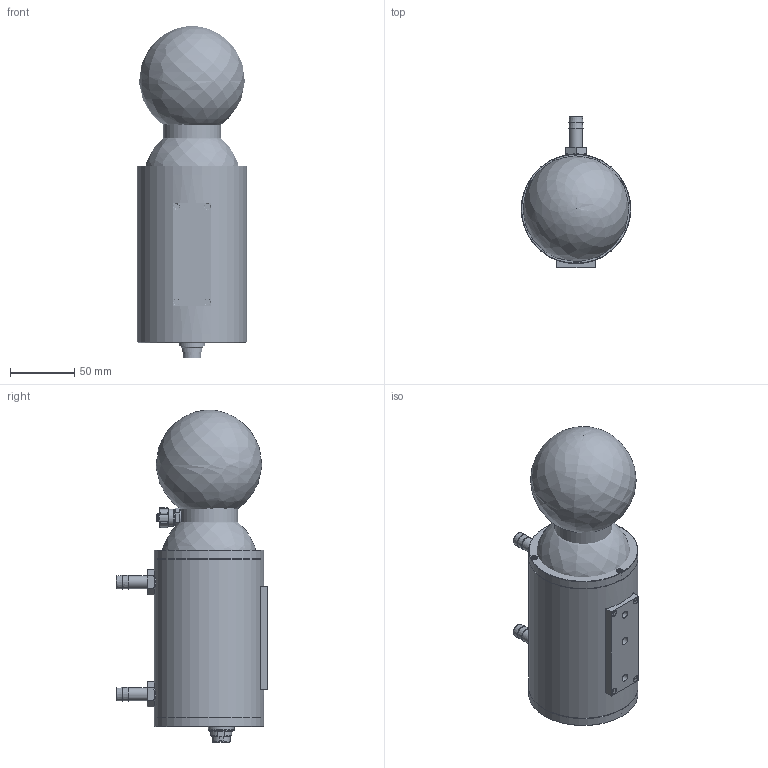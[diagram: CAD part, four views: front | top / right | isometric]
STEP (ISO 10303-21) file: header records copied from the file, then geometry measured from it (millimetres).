
FILE_DESCRIPTION((''),'2;1');
FILE_NAME('C:\Dokumente und Einstellungen\Dr.Maurer\Desktop\Inventor Matthias Kimmerle\Kühlgehäuse\Step Dateien\Kühlgehäuse mit Blasvorsatz.stp','2001-05-31T13:23:56',('Dr.Maurer'),(''),'Autodesk Inventor 10','Autodesk Inventor 10','');
FILE_SCHEMA(('AUTOMOTIVE_DESIGN { 1 0 10303 214 1 1 1 1 }'));
Length unit declared in the file: millimetre
Products named in the file (16): Kühlgehäuse mit Blasvorsatz stepiam; Kühlgehäuse; Gehäuse; Front; Optik; Deckel; Stecker; Montageplatte; 91430A083; _3607 N-1_4-P-9; 91290A104; Blasvorsatz; Blasvorsatz80; Dichtring; _2028 CK-1_8-PK-6; 93245A098
Assembly tree (26 placements, depth 3):
  Kühlgehäuse mit Blasvorsatz stepiam
    Kühlgehäuse
      Gehäuse
      Front
      Optik
      Deckel
      Stecker
      Montageplatte
      91430A083  x4
      _3607 N-1_4-P-9  x2
      91290A104  x6
    Blasvorsatz
      Blasvorsatz80
      Dichtring
      _2028 CK-1_8-PK-6
      93245A098  x3
Bounding box: 85 x 117.8 x 257.65 mm (x, y, z)
Volume: 886446.7 mm3; surface area: 180372.2 mm2
Topology: 24 solids, 24 shells, 1025 faces, 3805 edges, 2911 vertices
Faces by surface type: cylinder 402, plane 318, cone 195, bspline 74, torus 24, sphere 12
Full cylindrical faces by diameter (mm): 0.6 x12, 1 x12, 1.05 x12, 2.1 x10, 2.5 x231, 2.7 x10, 4.5 x6, 4.9 x1, 5 x6, 5.9 x1, 6 x2, 6.35 x1, 6.5 x2, 6.8 x1, 8.3 x1, 8.8 x1, 9.728 x1, 10 x3, 10.701 x1, 10.917 x1, 11.8 x2, 12 x1, 13 x1, 13.157 x2, 13.5 x1, 13.6 x1, 15 x1, 17 x2, 18 x1, 19 x2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
Entity records: 30545 total; most frequent: CARTESIAN_POINT 17582, ORIENTED_EDGE 2592, DIRECTION 2246, EDGE_CURVE 1296, VERTEX_POINT 1053, AXIS2_PLACEMENT_3D 972, EDGE_LOOP 861, FACE_OUTER_BOUND 539
